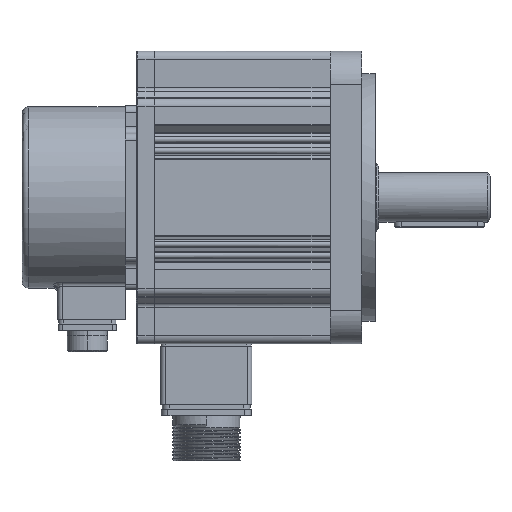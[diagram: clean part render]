
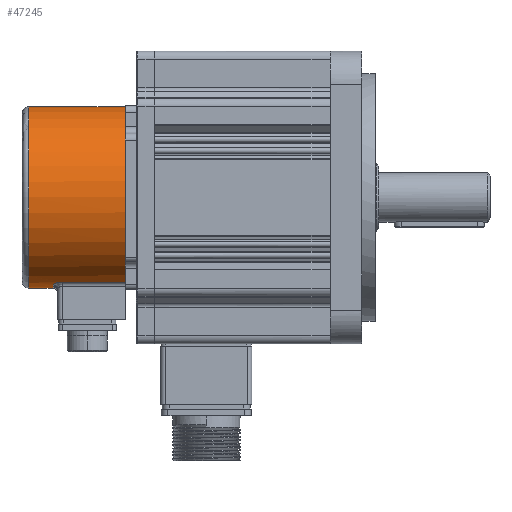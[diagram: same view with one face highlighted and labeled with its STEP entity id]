
A CAD part, front view. The second image highlights one B-rep face of the part: STEP entity #47245.
In plain terms, the highlighted cylindrical face has radius 40.25 mm (diameter 80.5 mm), a partial arc.
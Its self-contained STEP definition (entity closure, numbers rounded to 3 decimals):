
#122 = VERTEX_POINT ( 'NONE', #41206 ) ;
#138 = CIRCLE ( 'NONE', #54735, 40.25 ) ;
#1893 = CIRCLE ( 'NONE', #24809, 40.25 ) ;
#6420 = ORIENTED_EDGE ( 'NONE', *, *, #21926, .T. ) ;
#6510 = CARTESIAN_POINT ( 'NONE',  ( -122.248, 255.946, -103.155 ) ) ;
#6804 = B_SPLINE_CURVE_WITH_KNOTS ( 'NONE', 3,
 ( #80575, #40754, #33779, #66664, #6510, #46569, #12867, #79411, #6805, #59369 ),
 .UNSPECIFIED., .F., .F.,
 ( 4, 2, 2, 2, 4 ),
 ( 0., 0.25, 0.5, 0.75, 1. ),
 .UNSPECIFIED. ) ;
#6805 = CARTESIAN_POINT ( 'NONE',  ( -119.583, 254.481, -102.629 ) ) ;
#8411 = VECTOR ( 'NONE', #30196, 1000. ) ;
#10801 = CIRCLE ( 'NONE', #27638, 40.25 ) ;
#11086 = ORIENTED_EDGE ( 'NONE', *, *, #12098, .T. ) ;
#11609 = VERTEX_POINT ( 'NONE', #21841 ) ;
#12046 = CIRCLE ( 'NONE', #43443, 40.25 ) ;
#12098 = EDGE_CURVE ( 'NONE', #22807, #47963, #10801, .T. ) ;
#12301 = EDGE_CURVE ( 'NONE', #47963, #16432, #6804, .T. ) ;
#12867 = CARTESIAN_POINT ( 'NONE',  ( -121.065, 254.96, -102.808 ) ) ;
#12893 = ORIENTED_EDGE ( 'NONE', *, *, #85022, .F. ) ;
#13692 = VECTOR ( 'NONE', #15513, 1000. ) ;
#14203 = DIRECTION ( 'NONE',  ( -1., 0., 0. ) ) ;
#15513 = DIRECTION ( 'NONE',  ( -1., 0., 0. ) ) ;
#16432 = VERTEX_POINT ( 'NONE', #85173 ) ;
#17175 = EDGE_CURVE ( 'NONE', #44638, #24182, #138, .T. ) ;
#21841 = CARTESIAN_POINT ( 'NONE',  ( -91.05, 254.479, -102.628 ) ) ;
#21926 = EDGE_CURVE ( 'NONE', #16432, #11609, #53088, .T. ) ;
#22807 = VERTEX_POINT ( 'NONE', #29162 ) ;
#24182 = VERTEX_POINT ( 'NONE', #30078 ) ;
#24809 = AXIS2_PLACEMENT_3D ( 'NONE', #58540, #78885, #32655 ) ;
#26838 = EDGE_CURVE ( 'NONE', #30431, #44638, #45875, .T. ) ;
#27638 = AXIS2_PLACEMENT_3D ( 'NONE', #34834, #14203, #47642 ) ;
#29162 = CARTESIAN_POINT ( 'NONE',  ( -123.05, 268.569, -105.25 ) ) ;
#29588 = CARTESIAN_POINT ( 'NONE',  ( -123.05, 258.29, -103.862 ) ) ;
#29742 = ORIENTED_EDGE ( 'NONE', *, *, #74224, .F. ) ;
#29845 = ORIENTED_EDGE ( 'NONE', *, *, #17175, .T. ) ;
#30078 = CARTESIAN_POINT ( 'NONE',  ( -133.85, 268.769, -105.25 ) ) ;
#30196 = DIRECTION ( 'NONE',  ( 1., 0., 0. ) ) ;
#30431 = VERTEX_POINT ( 'NONE', #71959 ) ;
#31701 = DIRECTION ( 'NONE',  ( 1., 0., 0. ) ) ;
#32655 = DIRECTION ( 'NONE',  ( 0., 0., 1. ) ) ;
#33779 = CARTESIAN_POINT ( 'NONE',  ( -122.945, 257.287, -103.581 ) ) ;
#34834 = CARTESIAN_POINT ( 'NONE',  ( -123.05, 268.769, -65. ) ) ;
#35198 = ORIENTED_EDGE ( 'NONE', *, *, #12301, .T. ) ;
#35691 = CARTESIAN_POINT ( 'NONE',  ( -91.05, 268.769, -105.25 ) ) ;
#38369 = EDGE_LOOP ( 'NONE', ( #12893, #63231, #11086, #35198, #6420, #29742, #54946, #29845 ) ) ;
#39525 = LINE ( 'NONE', #35691, #73901 ) ;
#40754 = CARTESIAN_POINT ( 'NONE',  ( -123.048, 257.776, -103.723 ) ) ;
#41146 = DIRECTION ( 'NONE',  ( -1., 0., 0. ) ) ;
#41206 = CARTESIAN_POINT ( 'NONE',  ( -123.05, 268.769, -105.25 ) ) ;
#43364 = AXIS2_PLACEMENT_3D ( 'NONE', #60912, #41146, #54457 ) ;
#43443 = AXIS2_PLACEMENT_3D ( 'NONE', #51894, #85366, #45269 ) ;
#43932 = CARTESIAN_POINT ( 'NONE',  ( -133.85, 268.769, -65. ) ) ;
#44638 = VERTEX_POINT ( 'NONE', #64790 ) ;
#45269 = DIRECTION ( 'NONE',  ( 0., 0., 1. ) ) ;
#45875 = LINE ( 'NONE', #61749, #13692 ) ;
#46569 = CARTESIAN_POINT ( 'NONE',  ( -121.497, 255.233, -102.908 ) ) ;
#47245 = ADVANCED_FACE ( 'NONE', ( #77996 ), #51907, .T. ) ;
#47642 = DIRECTION ( 'NONE',  ( 0., 0., 1. ) ) ;
#47963 = VERTEX_POINT ( 'NONE', #29588 ) ;
#49659 = CARTESIAN_POINT ( 'NONE',  ( -19.827, 254.479, -102.628 ) ) ;
#51894 = CARTESIAN_POINT ( 'NONE',  ( -123.05, 268.769, -65. ) ) ;
#51907 = CYLINDRICAL_SURFACE ( 'NONE', #43364, 40.25 ) ;
#53088 = LINE ( 'NONE', #49659, #8411 ) ;
#54457 = DIRECTION ( 'NONE',  ( 0., 0., 1. ) ) ;
#54735 = AXIS2_PLACEMENT_3D ( 'NONE', #43932, #31701, #65160 ) ;
#54946 = ORIENTED_EDGE ( 'NONE', *, *, #26838, .T. ) ;
#58540 = CARTESIAN_POINT ( 'NONE',  ( -91.05, 268.769, -65. ) ) ;
#59369 = CARTESIAN_POINT ( 'NONE',  ( -119.05, 254.479, -102.628 ) ) ;
#60912 = CARTESIAN_POINT ( 'NONE',  ( -91.05, 268.769, -65. ) ) ;
#61749 = CARTESIAN_POINT ( 'NONE',  ( -91.05, 268.769, -24.75 ) ) ;
#62156 = DIRECTION ( 'NONE',  ( -1., 0., 0. ) ) ;
#63231 = ORIENTED_EDGE ( 'NONE', *, *, #82633, .T. ) ;
#64790 = CARTESIAN_POINT ( 'NONE',  ( -133.85, 268.769, -24.75 ) ) ;
#65160 = DIRECTION ( 'NONE',  ( 0., 0., 1. ) ) ;
#66664 = CARTESIAN_POINT ( 'NONE',  ( -122.537, 256.356, -103.291 ) ) ;
#71959 = CARTESIAN_POINT ( 'NONE',  ( -91.05, 268.769, -24.75 ) ) ;
#73901 = VECTOR ( 'NONE', #62156, 1000. ) ;
#74224 = EDGE_CURVE ( 'NONE', #30431, #11609, #1893, .T. ) ;
#77996 = FACE_OUTER_BOUND ( 'NONE', #38369, .T. ) ;
#78885 = DIRECTION ( 'NONE',  ( 1., 0., 0. ) ) ;
#79411 = CARTESIAN_POINT ( 'NONE',  ( -120.092, 254.577, -102.665 ) ) ;
#80575 = CARTESIAN_POINT ( 'NONE',  ( -123.05, 258.29, -103.862 ) ) ;
#82633 = EDGE_CURVE ( 'NONE', #122, #22807, #12046, .T. ) ;
#85022 = EDGE_CURVE ( 'NONE', #122, #24182, #39525, .T. ) ;
#85173 = CARTESIAN_POINT ( 'NONE',  ( -119.05, 254.479, -102.628 ) ) ;
#85366 = DIRECTION ( 'NONE',  ( -1., 0., 0. ) ) ;
